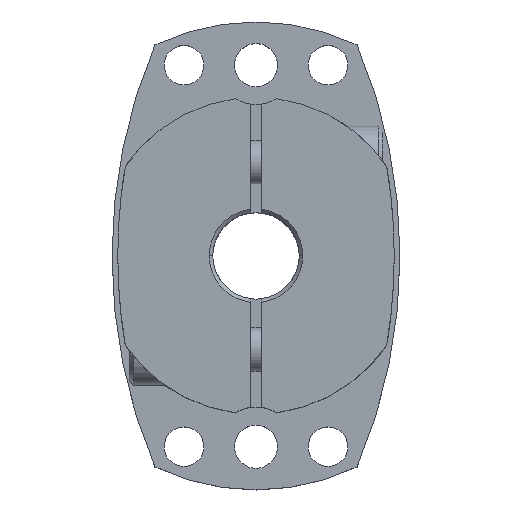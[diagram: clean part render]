
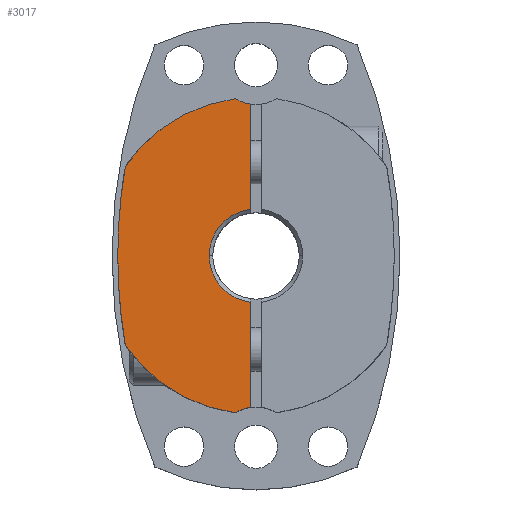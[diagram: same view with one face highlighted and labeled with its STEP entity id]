
A CAD part, top view. The second image highlights one B-rep face of the part: STEP entity #3017.
In plain terms, the highlighted planar face has unit normal (0, 0, 1).
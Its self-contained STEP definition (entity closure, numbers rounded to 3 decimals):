
#412=CARTESIAN_POINT('',(-6.5,0.,21.0));
#413=VERTEX_POINT('',#412);
#421=CARTESIAN_POINT('',(-0.75,6.457,21.0));
#422=VERTEX_POINT('',#421);
#436=CARTESIAN_POINT('',(0.,0.0,21.0));
#437=DIRECTION('',(0.0,0.0,1.0));
#438=DIRECTION('',(-1.0,0.0,0.0));
#439=AXIS2_PLACEMENT_3D('',#436,#437,#438);
#440=CIRCLE('',#439,6.5);
#441=EDGE_CURVE('',#422,#413,#440,.T.);
#673=CARTESIAN_POINT('',(-19.2,0.,21.0));
#674=VERTEX_POINT('',#673);
#683=CARTESIAN_POINT('',(-18.151,12.431,21.0));
#684=VERTEX_POINT('',#683);
#685=CARTESIAN_POINT('',(55.,0.,21.0));
#686=DIRECTION('',(0.0,0.0,-1.0));
#687=DIRECTION('',(1.0,0.0,0.0));
#688=AXIS2_PLACEMENT_3D('',#685,#686,#687);
#689=CIRCLE('',#688,74.2);
#690=EDGE_CURVE('',#674,#684,#689,.T.);
#1939=CARTESIAN_POINT('',(-2.875,-21.811,21.0));
#1940=VERTEX_POINT('',#1939);
#1947=CARTESIAN_POINT('',(-18.151,-12.431,21.0));
#1948=VERTEX_POINT('',#1947);
#1949=CARTESIAN_POINT('',(0.,0.,21.0));
#1950=DIRECTION('',(0.0,0.0,-1.0));
#1951=DIRECTION('',(1.0,0.0,0.0));
#1952=AXIS2_PLACEMENT_3D('',#1949,#1950,#1951);
#1953=CIRCLE('',#1952,22.);
#1954=EDGE_CURVE('',#1940,#1948,#1953,.T.);
#2563=CARTESIAN_POINT('',(55.,0.,21.0));
#2564=DIRECTION('',(0.0,0.0,-1.0));
#2565=DIRECTION('',(1.0,0.0,0.0));
#2566=AXIS2_PLACEMENT_3D('',#2563,#2564,#2565);
#2567=CIRCLE('',#2566,74.2);
#2568=EDGE_CURVE('',#1948,#674,#2567,.T.);
#2701=CARTESIAN_POINT('',(-2.875,21.811,21.0));
#2702=VERTEX_POINT('',#2701);
#2711=CARTESIAN_POINT('',(-0.75,21.051,21.0));
#2712=VERTEX_POINT('',#2711);
#2713=CARTESIAN_POINT('',(0.,26.5,21.0));
#2714=DIRECTION('',(0.0,0.0,-1.0));
#2715=DIRECTION('',(1.0,0.0,0.0));
#2716=AXIS2_PLACEMENT_3D('',#2713,#2714,#2715);
#2717=CIRCLE('',#2716,5.5);
#2718=EDGE_CURVE('',#2712,#2702,#2717,.T.);
#2860=CARTESIAN_POINT('',(-0.75,-21.051,21.0));
#2861=VERTEX_POINT('',#2860);
#2870=CARTESIAN_POINT('',(0.,-26.5,21.0));
#2871=DIRECTION('',(0.0,0.0,-1.0));
#2872=DIRECTION('',(1.0,0.0,0.0));
#2873=AXIS2_PLACEMENT_3D('',#2870,#2871,#2872);
#2874=CIRCLE('',#2873,5.5);
#2875=EDGE_CURVE('',#1940,#2861,#2874,.T.);
#2960=CARTESIAN_POINT('',(-0.75,6.457,21.0));
#2961=DIRECTION('',(0.0,1.0,0.0));
#2962=VECTOR('',#2961,14.595);
#2963=LINE('',#2960,#2962);
#2964=EDGE_CURVE('',#422,#2712,#2963,.T.);
#2981=CARTESIAN_POINT('',(0.,0.,21.0));
#2982=DIRECTION('',(0.0,0.0,1.0));
#2983=DIRECTION('',(1.0,0.0,0.0));
#2984=AXIS2_PLACEMENT_3D('',#2981,#2982,#2983);
#2985=PLANE('',#2984);
#2986=ORIENTED_EDGE('',*,*,#2718,.T.);
#2987=CARTESIAN_POINT('',(0.,0.,21.0));
#2988=DIRECTION('',(0.0,0.0,-1.0));
#2989=DIRECTION('',(1.0,0.0,0.0));
#2990=AXIS2_PLACEMENT_3D('',#2987,#2988,#2989);
#2991=CIRCLE('',#2990,22.);
#2992=EDGE_CURVE('',#684,#2702,#2991,.T.);
#2993=ORIENTED_EDGE('',*,*,#2992,.F.);
#2994=ORIENTED_EDGE('',*,*,#690,.F.);
#2995=ORIENTED_EDGE('',*,*,#2568,.F.);
#2996=ORIENTED_EDGE('',*,*,#1954,.F.);
#2997=ORIENTED_EDGE('',*,*,#2875,.T.);
#2998=CARTESIAN_POINT('',(-0.75,-6.457,21.0));
#2999=VERTEX_POINT('',#2998);
#3000=CARTESIAN_POINT('',(-0.75,-21.051,21.0));
#3001=DIRECTION('',(0.0,1.0,0.0));
#3002=VECTOR('',#3001,14.595);
#3003=LINE('',#3000,#3002);
#3004=EDGE_CURVE('',#2861,#2999,#3003,.T.);
#3005=ORIENTED_EDGE('',*,*,#3004,.T.);
#3006=CARTESIAN_POINT('',(0.,0.0,21.0));
#3007=DIRECTION('',(0.0,0.0,1.0));
#3008=DIRECTION('',(-1.0,0.0,0.0));
#3009=AXIS2_PLACEMENT_3D('',#3006,#3007,#3008);
#3010=CIRCLE('',#3009,6.5);
#3011=EDGE_CURVE('',#413,#2999,#3010,.T.);
#3012=ORIENTED_EDGE('',*,*,#3011,.F.);
#3013=ORIENTED_EDGE('',*,*,#441,.F.);
#3014=ORIENTED_EDGE('',*,*,#2964,.T.);
#3015=EDGE_LOOP('',(#2986,#2993,#2994,#2995,#2996,#2997,#3005,#3012,#3013,#3014));
#3016=FACE_OUTER_BOUND('',#3015,.T.);
#3017=ADVANCED_FACE('',(#3016),#2985,.T.);
